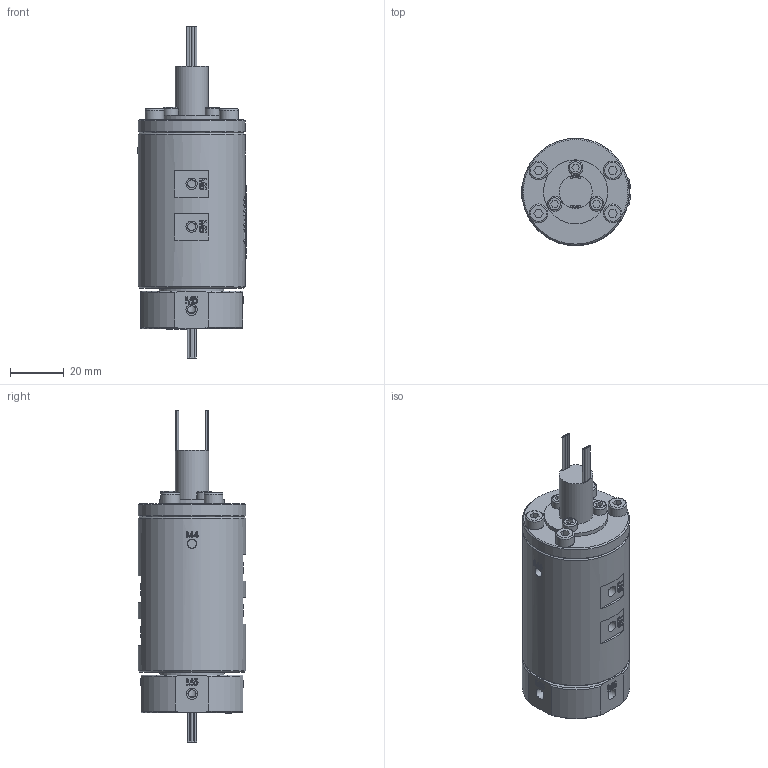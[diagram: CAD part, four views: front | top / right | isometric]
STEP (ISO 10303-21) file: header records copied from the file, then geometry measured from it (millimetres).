
FILE_DESCRIPTION(/* description */ (''),/* implementation_level */ '2;1');
FILE_NAME(/* name */ 'HQ04005-08M.stp',/* time_stamp */ '2025-09-01T15:43:51+08:00',/* author */ (''),/* organization */ (''),/* preprocessor_version */ 'ST-DEVELOPER v16.7',/* originating_system */ 'SIEMENS PLM Software NX 12.0',/* authorisation */ '');
FILE_SCHEMA (('AUTOMOTIVE_DESIGN { 1 0 10303 214 3 1 1 1 }'));
Length unit declared in the file: millimetre
Products named in the file (1): AdmiB44865CDwcva
Bounding box: 40.68 x 40 x 123.9 mm (x, y, z)
Volume: 98177.1 mm3; surface area: 19004.1 mm2
Topology: 1 solids, 9 shells, 1211 faces, 3232 edges, 2152 vertices
Faces by surface type: plane 580, extrusion 453, cylinder 96, bspline 50, cone 25, torus 7
Full cylindrical faces by diameter (mm): 0.8 x16, 3 x11, 3.4 x9, 4 x8, 4.1 x4, 4.2 x12, 5 x1, 5.5 x3, 6 x1, 7 x4, 12.4 x1, 23.9 x1, 24 x1, 32 x1, 40 x2
Entity records: 44585 total; most frequent: CARTESIAN_POINT 18777, ORIENTED_EDGE 6156, DIRECTION 3315, EDGE_CURVE 3078, B_SPLINE_CURVE_WITH_KNOTS 2448, VERTEX_POINT 2103, EDGE_LOOP 1449, ADVANCED_FACE 1211
